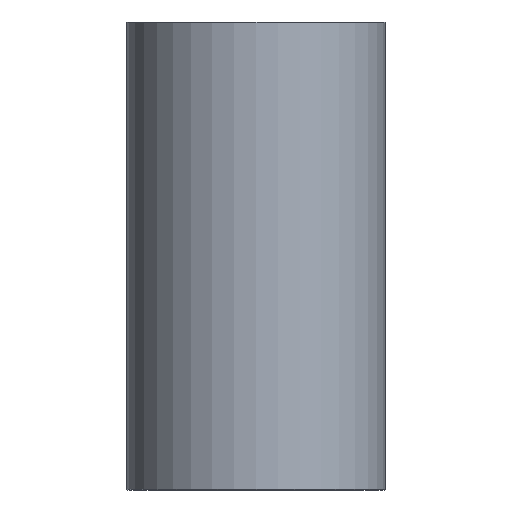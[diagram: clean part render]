
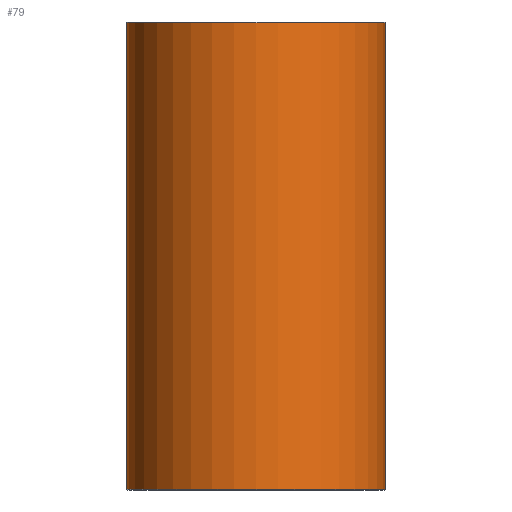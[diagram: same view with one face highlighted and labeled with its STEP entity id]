
A CAD part, front view. The second image highlights one B-rep face of the part: STEP entity #79.
In plain terms, the highlighted cylindrical face has radius 29 mm (diameter 58 mm), a full revolution.
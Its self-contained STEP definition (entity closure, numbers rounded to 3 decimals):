
#79=ADVANCED_FACE('',(#96,#97),#98,.T.);
#96=FACE_OUTER_BOUND('',#120,.T.);
#97=FACE_OUTER_BOUND('',#121,.T.);
#98=CYLINDRICAL_SURFACE('',#122,29.0);
#120=EDGE_LOOP('',(#152));
#121=EDGE_LOOP('',(#153));
#122=AXIS2_PLACEMENT_3D('',#154,#155,#156);
#152=ORIENTED_EDGE('',*,*,#178,.T.);
#153=ORIENTED_EDGE('',*,*,#177,.T.);
#154=CARTESIAN_POINT('',(0.0,0.0,105.0));
#155=DIRECTION('',(0.0,0.0,-1.0));
#156=DIRECTION('',(-1.0,0.0,0.0));
#177=EDGE_CURVE('',#190,#190,#191,.T.);
#178=EDGE_CURVE('',#192,#192,#193,.F.);
#190=VERTEX_POINT('',#206);
#191=CIRCLE('',#207,29.0);
#192=VERTEX_POINT('',#208);
#193=CIRCLE('',#209,29.0);
#206=CARTESIAN_POINT('',(29.0,0.0,0.2));
#207=AXIS2_PLACEMENT_3D('',#227,#228,#229);
#208=CARTESIAN_POINT('',(29.0,0.,104.8));
#209=AXIS2_PLACEMENT_3D('',#230,#231,#232);
#227=CARTESIAN_POINT('',(0.0,0.0,0.2));
#228=DIRECTION('',(0.0,0.0,1.0));
#229=DIRECTION('',(1.0,0.0,0.0));
#230=CARTESIAN_POINT('',(0.0,0.0,104.8));
#231=DIRECTION('',(0.0,0.0,1.0));
#232=DIRECTION('',(1.0,0.0,0.0));
